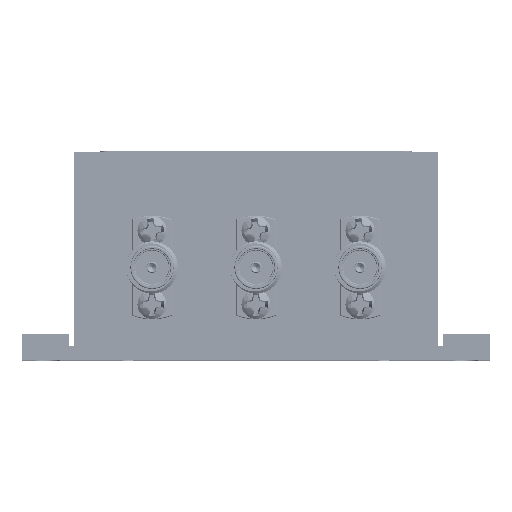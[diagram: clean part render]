
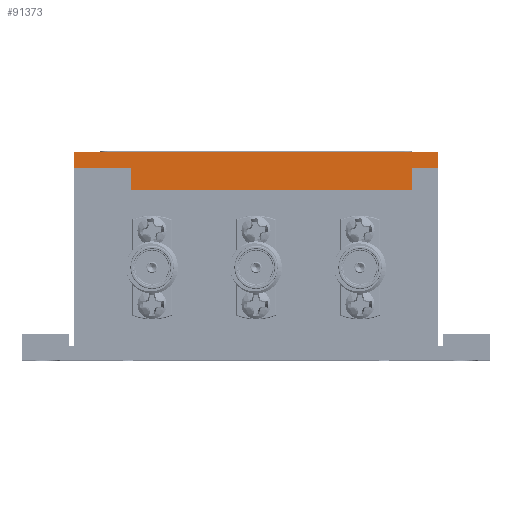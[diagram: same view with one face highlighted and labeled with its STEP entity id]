
A CAD part, top view. The second image highlights one B-rep face of the part: STEP entity #91373.
In plain terms, the highlighted planar face has unit normal (0, 0, 1).
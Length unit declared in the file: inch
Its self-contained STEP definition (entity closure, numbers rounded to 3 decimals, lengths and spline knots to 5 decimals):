
#189 = ORIENTED_EDGE ( 'NONE', *, *, #98287, .F. ) ;
#840 = VERTEX_POINT ( 'NONE', #35154 ) ;
#1205 = VECTOR ( 'NONE', #140938, 39.37008 ) ;
#2250 = VERTEX_POINT ( 'NONE', #93386 ) ;
#4634 = LINE ( 'NONE', #54420, #1205 ) ;
#4679 = LINE ( 'NONE', #118934, #12648 ) ;
#6925 = LINE ( 'NONE', #104150, #77320 ) ;
#8929 = CARTESIAN_POINT ( 'NONE',  ( -3.37248, 0.925, -5.27961 ) ) ;
#12648 = VECTOR ( 'NONE', #78205, 39.37008 ) ;
#15412 = FACE_OUTER_BOUND ( 'NONE', #122337, .T. ) ;
#18578 = VERTEX_POINT ( 'NONE', #8929 ) ;
#21703 = EDGE_CURVE ( 'NONE', #37714, #840, #4679, .T. ) ;
#21723 = CARTESIAN_POINT ( 'NONE',  ( -3.24748, 0.925, -5.27961 ) ) ;
#22991 = CARTESIAN_POINT ( 'NONE',  ( -3.37248, 0.925, -5.27961 ) ) ;
#24107 = DIRECTION ( 'NONE',  ( -1., 0., 0. ) ) ;
#33173 = LINE ( 'NONE', #135187, #93259 ) ;
#35154 = CARTESIAN_POINT ( 'NONE',  ( -4.72248, 0.82, -5.27961 ) ) ;
#37129 = CARTESIAN_POINT ( 'NONE',  ( -3.24748, 1., -5.27961 ) ) ;
#37714 = VERTEX_POINT ( 'NONE', #159690 ) ;
#40589 = ORIENTED_EDGE ( 'NONE', *, *, #77828, .T. ) ;
#41523 = PLANE ( 'NONE',  #53846 ) ;
#42158 = ORIENTED_EDGE ( 'NONE', *, *, #21703, .T. ) ;
#42613 = ORIENTED_EDGE ( 'NONE', *, *, #93789, .F. ) ;
#45117 = ORIENTED_EDGE ( 'NONE', *, *, #63690, .F. ) ;
#48020 = ORIENTED_EDGE ( 'NONE', *, *, #67390, .T. ) ;
#49165 = VERTEX_POINT ( 'NONE', #37129 ) ;
#53846 = AXIS2_PLACEMENT_3D ( 'NONE', #66831, #115845, #118242 ) ;
#54420 = CARTESIAN_POINT ( 'NONE',  ( -4.99748, 1., -5.27961 ) ) ;
#63690 = EDGE_CURVE ( 'NONE', #37714, #119784, #67465, .T. ) ;
#66831 = CARTESIAN_POINT ( 'NONE',  ( -3.24748, 1., -5.27961 ) ) ;
#67390 = EDGE_CURVE ( 'NONE', #840, #2250, #6925, .T. ) ;
#67465 = LINE ( 'NONE', #114857, #105184 ) ;
#67580 = VERTEX_POINT ( 'NONE', #86058 ) ;
#72826 = DIRECTION ( 'NONE',  ( 0., -1., 0. ) ) ;
#77309 = ORIENTED_EDGE ( 'NONE', *, *, #131298, .F. ) ;
#77320 = VECTOR ( 'NONE', #153856, 39.37008 ) ;
#77828 = EDGE_CURVE ( 'NONE', #67580, #119784, #4634, .T. ) ;
#78205 = DIRECTION ( 'NONE',  ( 0., -1., 0. ) ) ;
#78329 = VECTOR ( 'NONE', #159436, 39.37008 ) ;
#86058 = CARTESIAN_POINT ( 'NONE',  ( -4.99748, 1., -5.27961 ) ) ;
#88646 = DIRECTION ( 'NONE',  ( 0., -1., 0. ) ) ;
#91373 = ADVANCED_FACE ( 'NONE', ( #15412 ), #41523, .F. ) ;
#93259 = VECTOR ( 'NONE', #24107, 39.37008 ) ;
#93386 = CARTESIAN_POINT ( 'NONE',  ( -3.37248, 0.82, -5.27961 ) ) ;
#93789 = EDGE_CURVE ( 'NONE', #136387, #18578, #33173, .T. ) ;
#96204 = ORIENTED_EDGE ( 'NONE', *, *, #136828, .F. ) ;
#98096 = LINE ( 'NONE', #22991, #114009 ) ;
#98287 = EDGE_CURVE ( 'NONE', #49165, #136387, #135239, .T. ) ;
#104150 = CARTESIAN_POINT ( 'NONE',  ( -3.24748, 0.82, -5.27961 ) ) ;
#105184 = VECTOR ( 'NONE', #141699, 39.37008 ) ;
#107604 = VECTOR ( 'NONE', #88646, 39.37008 ) ;
#108929 = CARTESIAN_POINT ( 'NONE',  ( -3.24748, 1., -5.27961 ) ) ;
#114009 = VECTOR ( 'NONE', #72826, 39.37008 ) ;
#114857 = CARTESIAN_POINT ( 'NONE',  ( -4.99748, 0.925, -5.27961 ) ) ;
#115845 = DIRECTION ( 'NONE',  ( 0., 0., -1. ) ) ;
#118242 = DIRECTION ( 'NONE',  ( -1., 0., 0. ) ) ;
#118934 = CARTESIAN_POINT ( 'NONE',  ( -4.72248, 0.925, -5.27961 ) ) ;
#119784 = VERTEX_POINT ( 'NONE', #134148 ) ;
#122337 = EDGE_LOOP ( 'NONE', ( #48020, #77309, #42613, #189, #96204, #40589, #45117, #42158 ) ) ;
#122744 = LINE ( 'NONE', #108929, #78329 ) ;
#131298 = EDGE_CURVE ( 'NONE', #18578, #2250, #98096, .T. ) ;
#134148 = CARTESIAN_POINT ( 'NONE',  ( -4.99748, 0.925, -5.27961 ) ) ;
#135187 = CARTESIAN_POINT ( 'NONE',  ( -3.24748, 0.925, -5.27961 ) ) ;
#135239 = LINE ( 'NONE', #147420, #107604 ) ;
#136387 = VERTEX_POINT ( 'NONE', #21723 ) ;
#136828 = EDGE_CURVE ( 'NONE', #67580, #49165, #122744, .T. ) ;
#140938 = DIRECTION ( 'NONE',  ( 0., -1., 0. ) ) ;
#141699 = DIRECTION ( 'NONE',  ( -1., 0., 0. ) ) ;
#147420 = CARTESIAN_POINT ( 'NONE',  ( -3.24748, 1., -5.27961 ) ) ;
#153856 = DIRECTION ( 'NONE',  ( 1., 0., 0. ) ) ;
#159436 = DIRECTION ( 'NONE',  ( 1., 0., 0. ) ) ;
#159690 = CARTESIAN_POINT ( 'NONE',  ( -4.72248, 0.925, -5.27961 ) ) ;
